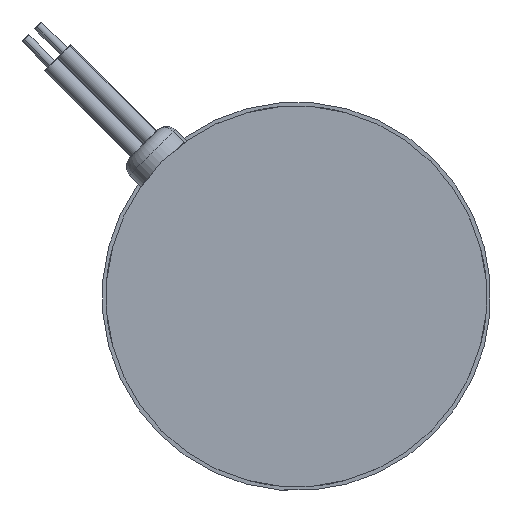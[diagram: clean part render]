
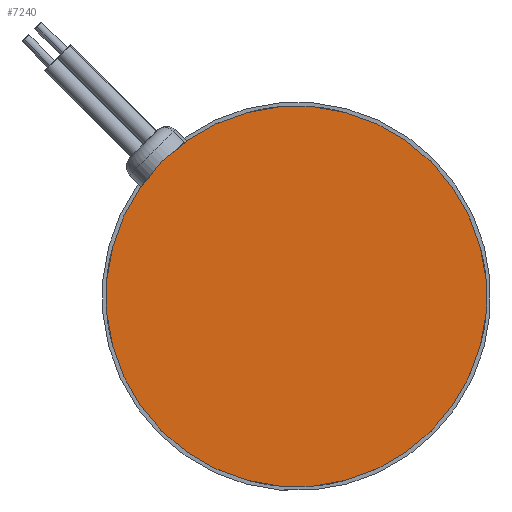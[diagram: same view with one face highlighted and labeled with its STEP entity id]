
A CAD part, left-side view. The second image highlights one B-rep face of the part: STEP entity #7240.
In plain terms, the highlighted planar face has unit normal (-1, 0, 0).
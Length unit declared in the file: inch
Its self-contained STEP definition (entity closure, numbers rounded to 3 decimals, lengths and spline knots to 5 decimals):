
#442 = ORIENTED_EDGE ( 'NONE', *, *, #7364, .F. ) ;
#963 = DIRECTION ( 'NONE',  ( 1., 0., 0. ) ) ;
#1051 = VERTEX_POINT ( 'NONE', #1239 ) ;
#1053 = CIRCLE ( 'NONE', #8153, 1.5624 ) ;
#1183 = AXIS2_PLACEMENT_3D ( 'NONE', #3435, #4114, #1704 ) ;
#1239 = CARTESIAN_POINT ( 'NONE',  ( -0.32797, 2.40744, 5.7787 ) ) ;
#1265 = AXIS2_PLACEMENT_3D ( 'NONE', #7543, #963, #9262 ) ;
#1704 = DIRECTION ( 'NONE',  ( 0., -0.707, 0.707 ) ) ;
#2540 = DIRECTION ( 'NONE',  ( 0., -0.707, 0.707 ) ) ;
#3435 = CARTESIAN_POINT ( 'NONE',  ( -0.32797, 3.51222, 4.67391 ) ) ;
#4114 = DIRECTION ( 'NONE',  ( 1., 0., 0. ) ) ;
#4319 = PLANE ( 'NONE',  #1265 ) ;
#4449 = EDGE_CURVE ( 'NONE', #9543, #1051, #6058, .T. ) ;
#6058 = CIRCLE ( 'NONE', #1183, 1.5624 ) ;
#6616 = DIRECTION ( 'NONE',  ( 1., 0., 0. ) ) ;
#7240 = ADVANCED_FACE ( 'NONE', ( #7611 ), #4319, .F. ) ;
#7364 = EDGE_CURVE ( 'NONE', #1051, #9543, #1053, .T. ) ;
#7543 = CARTESIAN_POINT ( 'NONE',  ( -0.32797, 3.51222, 4.67391 ) ) ;
#7611 = FACE_OUTER_BOUND ( 'NONE', #8017, .T. ) ;
#8017 = EDGE_LOOP ( 'NONE', ( #10098, #442 ) ) ;
#8153 = AXIS2_PLACEMENT_3D ( 'NONE', #9788, #6616, #2540 ) ;
#8407 = CARTESIAN_POINT ( 'NONE',  ( -0.32797, 4.61701, 3.56913 ) ) ;
#9262 = DIRECTION ( 'NONE',  ( 0., -0.707, 0.707 ) ) ;
#9543 = VERTEX_POINT ( 'NONE', #8407 ) ;
#9788 = CARTESIAN_POINT ( 'NONE',  ( -0.32797, 3.51222, 4.67391 ) ) ;
#10098 = ORIENTED_EDGE ( 'NONE', *, *, #4449, .F. ) ;
